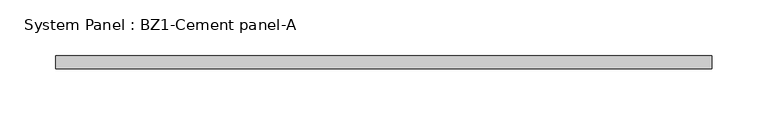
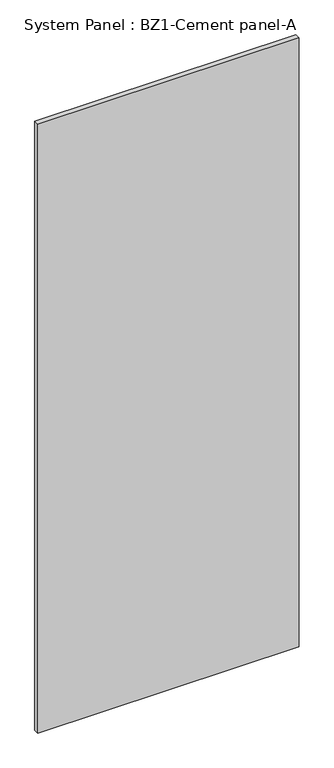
"""IFC4 building model written with IfcOpenShell, lengths in millimetres: plate geometry, System Panel : BZ1-Cement panel-A."""

from ifc_helpers import new_model, si_unit, origin, origin_with_axes, place, context, project, spatial, polyline, outline, extrude, source, transform, mapped, element, save


def system_panel_bz1_cement_panel_a_80ad805f(model_context):
    return source(origin(), model_context, "Body", "SweptSolid", [
        extrude(outline(polyline([(295.8666095, -2.0), (-295.8666095, -2.0), (-295.8666095, 10.0), (295.8666095, 10.0), (295.8666095, -2.0)])), origin_with_axes(), (0.0, 0.0, 1.0), 1457.28125),
    ])


if __name__ == "__main__":
    model = new_model("IFC4")
    model_context = context("Model", 3, world=origin())
    ifc_project = project(units=[si_unit("LENGTHUNIT", "METRE", prefix="MILLI")], contexts=[model_context])
    site = spatial("IfcSite", under=ifc_project)
    building = spatial("IfcBuilding", under=site)
    placement = place(None, origin())
    system_panel_bz1_cement_panel_a_shape = system_panel_bz1_cement_panel_a_80ad805f(model_context)
    element("IfcPlate", 1, ObjectType="System Panel : BZ1-Cement panel-A", at=placement, inside=building, context=model_context, shape_type="MappedRepresentation", body=[
        mapped(system_panel_bz1_cement_panel_a_shape, transform((0.0, 0.0, 0.0), x_axis=(1.0, 0.0, 0.0), y_axis=(0.0, 1.0, 0.0), z_axis=(0.0, 0.0, 1.0))),
    ])
    save(model, "model.ifc")
